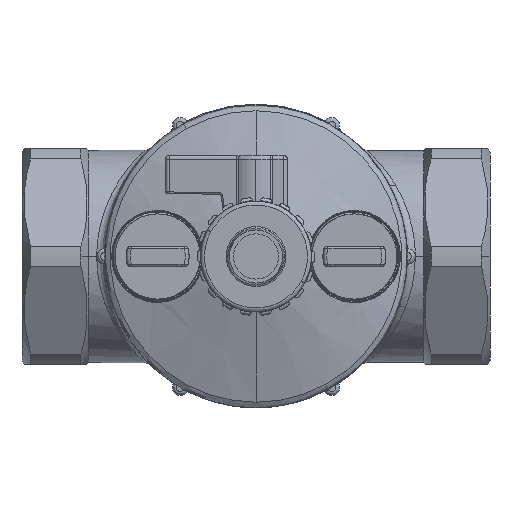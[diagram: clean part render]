
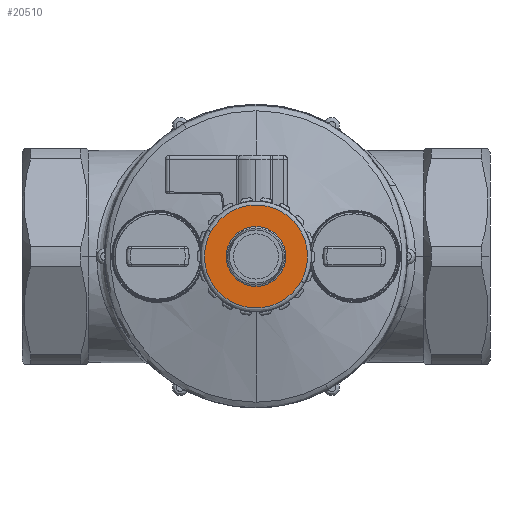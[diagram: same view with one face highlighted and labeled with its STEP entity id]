
A CAD part, front view. The second image highlights one B-rep face of the part: STEP entity #20510.
In plain terms, the highlighted planar face has unit normal (0, -1, 0).
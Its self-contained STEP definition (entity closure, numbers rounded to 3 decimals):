
#855 = CARTESIAN_POINT ( 'NONE',  ( 0., -16.476, 0. ) ) ;
#1952 = ORIENTED_EDGE ( 'NONE', *, *, #82033, .F. ) ;
#9869 = EDGE_CURVE ( 'NONE', #24209, #17330, #11264, .T. ) ;
#10793 = ORIENTED_EDGE ( 'NONE', *, *, #9869, .F. ) ;
#11264 =( BOUNDED_CURVE ( )  B_SPLINE_CURVE ( 3, ( #32264, #25170, #66364, #13595 ),
 .UNSPECIFIED., .F., .F. ) 
 B_SPLINE_CURVE_WITH_KNOTS ( ( 4, 4 ),
 ( 0., 1. ),
 .UNSPECIFIED. ) 
 CURVE ( )  GEOMETRIC_REPRESENTATION_ITEM ( )  RATIONAL_B_SPLINE_CURVE ( ( 1., 0.333, 0.333, 1. ) ) 
 REPRESENTATION_ITEM ( '' )  );
#11797 = DIRECTION ( 'NONE',  ( 0., 1., 0. ) ) ;
#12914 = AXIS2_PLACEMENT_3D ( 'NONE', #38851, #11797, #32655 ) ;
#13595 = CARTESIAN_POINT ( 'NONE',  ( -6.28, -16.476, -11.496 ) ) ;
#16026 = CARTESIAN_POINT ( 'NONE',  ( 0., -16.476, -7.6 ) ) ;
#16239 = AXIS2_PLACEMENT_3D ( 'NONE', #63274, #55764, #71218 ) ;
#16701 = FACE_BOUND ( 'NONE', #20362, .T. ) ;
#17330 = VERTEX_POINT ( 'NONE', #50738 ) ;
#20362 = EDGE_LOOP ( 'NONE', ( #1952, #82163 ) ) ;
#20510 = ADVANCED_FACE ( 'NONE', ( #16701, #78275 ), #46374, .F. ) ;
#23595 = CARTESIAN_POINT ( 'NONE',  ( -6.28, -16.476, -11.496 ) ) ;
#24209 = VERTEX_POINT ( 'NONE', #41602 ) ;
#25170 = CARTESIAN_POINT ( 'NONE',  ( 29.273, -16.476, -1.065 ) ) ;
#26651 = VERTEX_POINT ( 'NONE', #31298 ) ;
#31298 = CARTESIAN_POINT ( 'NONE',  ( 0., -16.476, 7.6 ) ) ;
#32264 = CARTESIAN_POINT ( 'NONE',  ( 6.28, -16.476, 11.496 ) ) ;
#32655 = DIRECTION ( 'NONE',  ( 0., 0., 1. ) ) ;
#36103 = CIRCLE ( 'NONE', #16239, 7.6 ) ;
#37329 = CARTESIAN_POINT ( 'NONE',  ( -16.712, -16.476, 24.057 ) ) ;
#38851 = CARTESIAN_POINT ( 'NONE',  ( 0., -16.476, 14.1 ) ) ;
#41602 = CARTESIAN_POINT ( 'NONE',  ( 6.28, -16.476, 11.496 ) ) ;
#45428 = ORIENTED_EDGE ( 'NONE', *, *, #70203, .F. ) ;
#46374 = PLANE ( 'NONE',  #12914 ) ;
#50738 = CARTESIAN_POINT ( 'NONE',  ( -6.28, -16.476, -11.496 ) ) ;
#52033 = VERTEX_POINT ( 'NONE', #16026 ) ;
#53218 = DIRECTION ( 'NONE',  ( 0., 0., 1. ) ) ;
#55764 = DIRECTION ( 'NONE',  ( 0., -1., 0. ) ) ;
#57545 = EDGE_CURVE ( 'NONE', #52033, #26651, #36103, .T. ) ;
#63274 = CARTESIAN_POINT ( 'NONE',  ( 0., -16.476, 0. ) ) ;
#63490 = CARTESIAN_POINT ( 'NONE',  ( -29.273, -16.476, 1.065 ) ) ;
#63527 = AXIS2_PLACEMENT_3D ( 'NONE', #855, #74012, #53218 ) ;
#64364 = CARTESIAN_POINT ( 'NONE',  ( 6.28, -16.476, 11.496 ) ) ;
#66364 = CARTESIAN_POINT ( 'NONE',  ( 16.712, -16.476, -24.057 ) ) ;
#67761 = CIRCLE ( 'NONE', #63527, 7.6 ) ;
#70203 = EDGE_CURVE ( 'NONE', #17330, #24209, #84397, .T. ) ;
#71218 = DIRECTION ( 'NONE',  ( 0., 0., 1. ) ) ;
#72811 = EDGE_LOOP ( 'NONE', ( #45428, #10793 ) ) ;
#74012 = DIRECTION ( 'NONE',  ( 0., -1., 0. ) ) ;
#78275 = FACE_OUTER_BOUND ( 'NONE', #72811, .T. ) ;
#82033 = EDGE_CURVE ( 'NONE', #26651, #52033, #67761, .T. ) ;
#82163 = ORIENTED_EDGE ( 'NONE', *, *, #57545, .F. ) ;
#84397 =( BOUNDED_CURVE ( )  B_SPLINE_CURVE ( 3, ( #23595, #63490, #37329, #64364 ),
 .UNSPECIFIED., .F., .F. ) 
 B_SPLINE_CURVE_WITH_KNOTS ( ( 4, 4 ),
 ( 0., 1. ),
 .UNSPECIFIED. ) 
 CURVE ( )  GEOMETRIC_REPRESENTATION_ITEM ( )  RATIONAL_B_SPLINE_CURVE ( ( 1., 0.333, 0.333, 1. ) ) 
 REPRESENTATION_ITEM ( '' )  );
